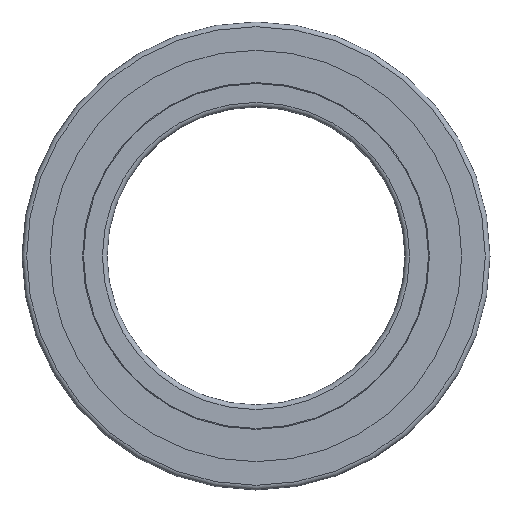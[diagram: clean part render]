
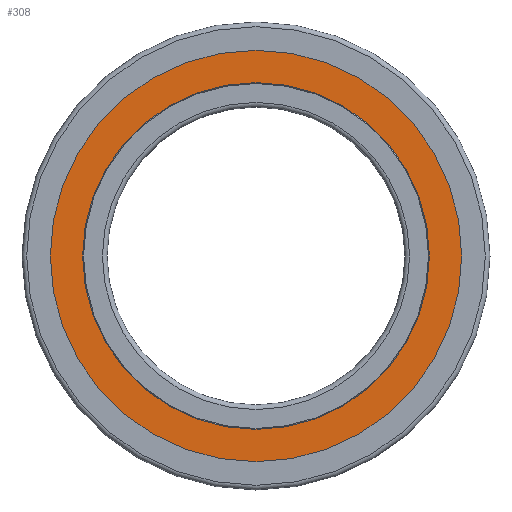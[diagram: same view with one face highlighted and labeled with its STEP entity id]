
A CAD part, left-side view. The second image highlights one B-rep face of the part: STEP entity #308.
In plain terms, the highlighted planar face has unit normal (-1, 0, 0).
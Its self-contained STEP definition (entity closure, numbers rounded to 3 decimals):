
#252=PLANE('',#1126);
#308=ADVANCED_FACE('',(#403,#404),#252,.F.);
#403=FACE_BOUND('',#587,.T.);
#404=FACE_BOUND('',#588,.T.);
#587=EDGE_LOOP('',(#747));
#588=EDGE_LOOP('',(#748));
#747=ORIENTED_EDGE('',*,*,#1003,.F.);
#748=ORIENTED_EDGE('',*,*,#1001,.T.);
#897=VERTEX_POINT('',#1470);
#899=VERTEX_POINT('',#1475);
#1001=EDGE_CURVE('',#897,#897,#1081,.T.);
#1003=EDGE_CURVE('',#899,#899,#1083,.T.);
#1081=CIRCLE('',#1122,48.35);
#1083=CIRCLE('',#1125,40.75);
#1122=AXIS2_PLACEMENT_3D('',#1469,#1252,#1253);
#1125=AXIS2_PLACEMENT_3D('',#1474,#1258,#1259);
#1126=AXIS2_PLACEMENT_3D('',#1476,#1260,#1261);
#1252=DIRECTION('',(-1.,0.,0.));
#1253=DIRECTION('',(0.,0.,1.));
#1258=DIRECTION('',(-1.,0.,0.));
#1259=DIRECTION('',(0.,0.,1.));
#1260=DIRECTION('',(1.,0.,0.));
#1261=DIRECTION('',(0.,0.,-1.));
#1469=CARTESIAN_POINT('',(0.1,0.,0.));
#1470=CARTESIAN_POINT('',(0.1,0.,48.35));
#1474=CARTESIAN_POINT('',(0.1,0.,0.));
#1475=CARTESIAN_POINT('',(0.1,0.,40.75));
#1476=CARTESIAN_POINT('',(0.1,0.,48.35));
